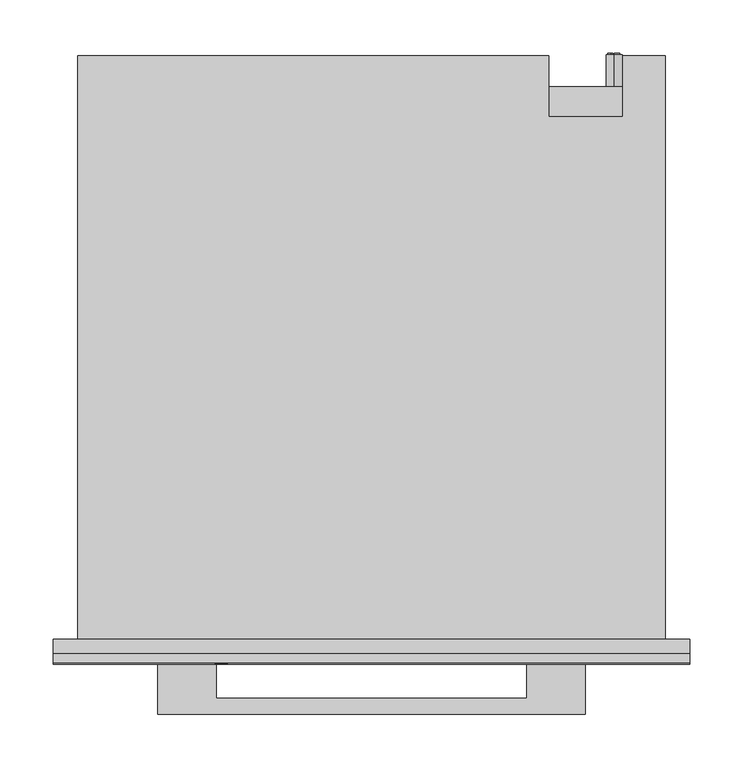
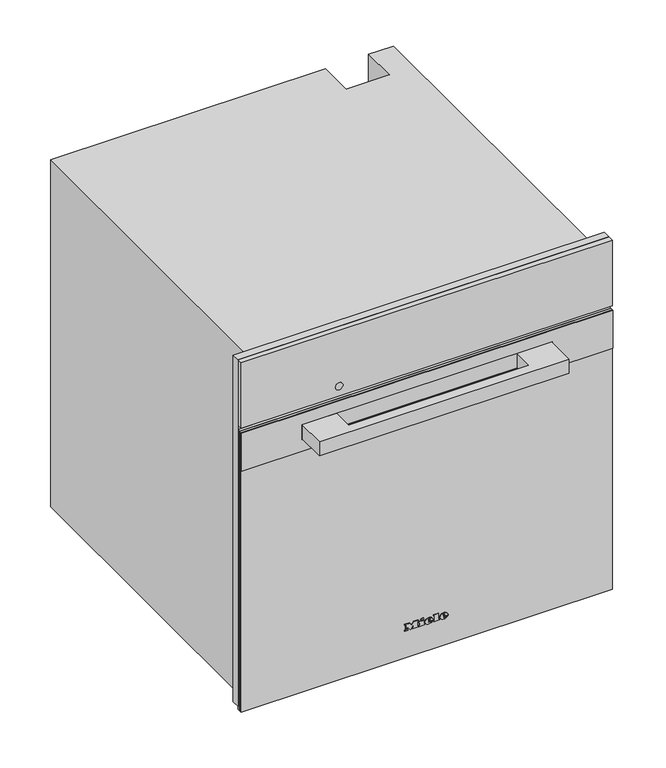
"""IFC4 building model written with IfcOpenShell, lengths in millimetres: proxy geometry, 12109610_CN_DGC7860HCProC_EDST- : 23786049_CN_12109610_DGC7860HCProC_EDST-."""

from ifc_helpers import new_model, si_unit, point, frame, frame_2d, origin, place, context, project, spatial, polyline, circle_curve, ellipse_curve, trimmed, segment, composite_curve, outline, extrude, faceted_brep, source, transform, mapped, element, save
from ifc_brep_helpers import plane_surface, cylinder_surface, revolved_surface, extruded_surface, advanced_brep


def specialty_equipment_704f67a2(model_context):
    return source(origin(), model_context, "Body", "SolidModel", [
        extrude(outline(polyline([(596.0, 297.5), (596.0, -297.5), (9.0, -297.5), (9.0, 297.5), (596.0, 297.5)]), holes=[polyline([(485.0, -272.5), (485.0, 272.5), (27.0, 272.5), (27.0, -272.5), (485.0, -272.5)])]), frame((0.0, -13.0, 0.0), z_axis=(0.0, 1.0, 0.0), x_axis=(0.0, 0.0, 1.0)), (0.0, 0.0, 1.0), 13.0),
        advanced_brep(
        [(227.0, 547.0, 396.5), (227.0, 547.0, 381.5), (221.4098301, 547.0, 384.0), (225.5, 547.0, 384.0), (225.5, 547.0, 394.0), (224.4955303, 547.0, 394.0), (224.4955303, 547.0, 385.0), (221.0315043, 547.0, 385.0), (221.0315043, 547.0, 384.4582978), (232.0, 547.0, 384.0), (232.0, 547.0, 394.0), (227.0, 547.0, 394.0), (227.0, 547.0, 393.0), (231.0, 547.0, 393.0), (231.0, 547.0, 389.5), (228.0, 547.0, 389.5), (228.0, 547.0, 388.5), (231.0, 547.0, 388.5), (231.0, 547.0, 385.0), (227.0, 547.0, 385.0), (227.0, 547.0, 384.0), (227.0, 517.0, 381.5), (227.0, 517.0, 396.5), (232.0, 548.0, 394.0), (232.0, 548.0, 384.0), (227.0, 548.0, 384.0), (227.0, 548.0, 385.0), (231.0, 548.0, 385.0), (231.0, 548.0, 388.5), (228.0, 548.0, 388.5), (228.0, 548.0, 389.5), (231.0, 548.0, 389.5), (231.0, 548.0, 393.0), (227.0, 548.0, 393.0), (227.0, 548.0, 394.0), (225.5, 548.0, 384.0), (221.0315043, 548.0, 384.0), (221.0315043, 548.0, 385.0), (224.4955303, 548.0, 385.0), (224.4955303, 548.0, 394.0), (225.5, 548.0, 394.0), (221.0315043, 547.0, 384.0)],
        [
            (0, 1, circle_curve(frame((227.0, 547.0, 389.0), z_axis=(0.0, 1.0, 0.0), x_axis=(0.0, 0.0, 1.0)), 7.5)),
            (1, 2, circle_curve(frame((227.0, 547.0, 389.0), z_axis=(0.0, 1.0, 0.0), x_axis=(0.0, 0.0, 1.0)), 7.5)),
            (2, 3),
            (3, 4),
            (4, 5),
            (5, 6),
            (6, 7),
            (7, 8),
            (8, 0, circle_curve(frame((227.0, 547.0, 389.0), z_axis=(0.0, 1.0, 0.0), x_axis=(0.0, 0.0, 1.0)), 7.5)),
            (9, 10),
            (10, 11),
            (11, 12),
            (12, 13),
            (13, 14),
            (14, 15),
            (15, 16),
            (16, 17),
            (17, 18),
            (18, 19),
            (19, 20),
            (20, 9),
            (21, 22, circle_curve(frame((227.0, 517.0, 389.0), z_axis=(0.0, -1.0, 0.0), x_axis=(0.0, 0.0, 1.0)), 7.5)),
            (22, 21, circle_curve(frame((227.0, 517.0, 389.0), z_axis=(0.0, -1.0, 0.0), x_axis=(0.0, 0.0, 1.0)), 7.5)),
            (0, 22),
            (21, 1),
            (8, 2, circle_curve(frame((227.0, 547.0, 389.0), z_axis=(0.0, -1.0, 0.0), x_axis=(0.0, 0.0, 1.0)), 7.5)),
            (23, 24),
            (24, 25),
            (25, 26),
            (26, 27),
            (27, 28),
            (28, 29),
            (29, 30),
            (30, 31),
            (31, 32),
            (32, 33),
            (33, 34),
            (34, 23),
            (35, 36),
            (36, 37),
            (37, 38),
            (38, 39),
            (39, 40),
            (40, 35),
            (8, 41),
            (41, 2),
            (23, 10),
            (9, 24),
            (20, 25),
            (19, 26),
            (18, 27),
            (17, 28),
            (16, 29),
            (15, 30),
            (14, 31),
            (13, 32),
            (12, 33),
            (11, 34),
            (35, 3),
            (41, 36),
            (7, 37),
            (6, 38),
            (5, 39),
            (4, 40),
        ],
        [
            plane_surface(frame((227.0, 547.0, 396.5), z_axis=(0.0, 1.0, 0.0), x_axis=(1.0, 0.0, 0.0))),
            plane_surface(frame((227.0, 517.0, 396.5), z_axis=(0.0, -1.0, 0.0), x_axis=(-1.0, 0.0, 0.0))),
            cylinder_surface(frame((227.0, 547.0, 389.0), z_axis=(0.0, -1.0, 0.0), x_axis=(0.0, 0.0, 1.0)), 7.5),
            plane_surface(frame((232.0, 548.0, 394.0), z_axis=(0.0, 1.0, 0.0), x_axis=(0.0, 0.0, -1.0))),
            plane_surface(frame((232.0, 547.0, 394.0), z_axis=(0.0, -1.0, 0.0), x_axis=(0.0, 0.0, 1.0))),
            plane_surface(frame((232.0, 548.0, 394.0), z_axis=(1.0, 0.0, 0.0), x_axis=(0.0, -1.0, 0.0))),
            plane_surface(frame((232.0, 548.0, 384.0), z_axis=(0.0, 0.0, -1.0), x_axis=(0.0, -1.0, 0.0))),
            plane_surface(frame((227.0, 548.0, 384.0), z_axis=(-1.0, 0.0, 0.0), x_axis=(0.0, -1.0, 0.0))),
            plane_surface(frame((227.0, 548.0, 385.0), z_axis=(0.0, 0.0, 1.0), x_axis=(0.0, -1.0, 0.0))),
            plane_surface(frame((231.0, 548.0, 385.0), z_axis=(-1.0, 0.0, 0.0), x_axis=(0.0, -1.0, 0.0))),
            plane_surface(frame((231.0, 548.0, 388.5), z_axis=(0.0, 0.0, -1.0), x_axis=(0.0, -1.0, 0.0))),
            plane_surface(frame((228.0, 548.0, 388.5), z_axis=(-1.0, 0.0, 0.0), x_axis=(0.0, -1.0, 0.0))),
            plane_surface(frame((228.0, 548.0, 389.5), z_axis=(0.0, 0.0, 1.0), x_axis=(0.0, -1.0, 0.0))),
            plane_surface(frame((231.0, 548.0, 389.5), z_axis=(-1.0, 0.0, 0.0), x_axis=(0.0, -1.0, 0.0))),
            plane_surface(frame((231.0, 548.0, 393.0), z_axis=(0.0, 0.0, -1.0), x_axis=(0.0, -1.0, 0.0))),
            plane_surface(frame((227.0, 548.0, 393.0), z_axis=(-1.0, 0.0, 0.0), x_axis=(0.0, -1.0, 0.0))),
            plane_surface(frame((227.0, 548.0, 394.0), z_axis=(0.0, 0.0, 1.0), x_axis=(0.0, -1.0, 0.0))),
            plane_surface(frame((225.5, 548.0, 384.0), z_axis=(0.0, 0.0, -1.0), x_axis=(0.0, -1.0, 0.0))),
            plane_surface(frame((221.0315043, 548.0, 384.0), z_axis=(-1.0, 0.0, 0.0), x_axis=(0.0, -1.0, 0.0))),
            plane_surface(frame((221.0315043, 548.0, 385.0), z_axis=(0.0, 0.0, 1.0), x_axis=(0.0, -1.0, 0.0))),
            plane_surface(frame((224.4955303, 548.0, 385.0), z_axis=(-1.0, 0.0, 0.0), x_axis=(0.0, -1.0, 0.0))),
            plane_surface(frame((224.4955303, 548.0, 394.0), z_axis=(0.0, 0.0, 1.0), x_axis=(0.0, -1.0, 0.0))),
            plane_surface(frame((225.5, 548.0, 394.0), z_axis=(1.0, 0.0, 0.0), x_axis=(0.0, -1.0, 0.0))),
        ],
        [
            (0, [[1, 2, 3, 4, 5, 6, 7, 8, 9], [10, 11, 12, 13, 14, 15, 16, 17, 18, 19, 20, 21]]),
            (1, [[22, 23]]),
            (2, [[-1, 24, -22, 25]]),
            (2, [[-23, -24, -9, 26, -2, -25]]),
            (3, [[27, 28, 29, 30, 31, 32, 33, 34, 35, 36, 37, 38]]),
            (3, [[39, 40, 41, 42, 43, 44]]),
            (4, [[45, 46, -26]]),
            (5, [[-27, 47, -10, 48]]),
            (6, [[-28, -48, -21, 49]]),
            (7, [[-29, -49, -20, 50]]),
            (8, [[-30, -50, -19, 51]]),
            (9, [[-31, -51, -18, 52]]),
            (10, [[-32, -52, -17, 53]]),
            (11, [[-33, -53, -16, 54]]),
            (12, [[-34, -54, -15, 55]]),
            (13, [[-35, -55, -14, 56]]),
            (14, [[-36, -56, -13, 57]]),
            (15, [[-37, -57, -12, 58]]),
            (16, [[-38, -58, -11, -47]]),
            (17, [[-39, 59, -3, -46, 60]]),
            (18, [[-40, -60, -45, -8, 61]]),
            (19, [[-41, -61, -7, 62]]),
            (20, [[-42, -62, -6, 63]]),
            (21, [[-43, -63, -5, 64]]),
            (22, [[-44, -64, -4, -59]]),
        ],
    ),
        faceted_brep([(-275.0, 546.0, 0.0), (-275.0, 546.0, 588.0), (166.0, 546.0, 588.0), (166.0, 546.0, 0.0), (235.0, 546.0, 588.0), (275.0, 546.0, 588.0), (275.0, 546.0, 478.0), (235.0, 546.0, 478.0), (275.0, 0.0, 588.0), (-275.0, 0.0, 588.0), (-275.0, 0.0, 0.0), (275.0, 0.0, 0.0), (-272.5, 0.0, 485.0), (272.5, 0.0, 485.0), (272.5, 0.0, 27.0), (-272.5, 0.0, 27.0), (235.0, 489.0, 588.0), (166.0, 489.0, 588.0), (166.0, 517.0, 0.0), (275.0, 517.0, 0.0), (275.0, 517.0, 478.0), (272.5, 17.0, 485.0), (-272.5, 17.0, 485.0), (-272.5, 17.0, 27.0), (272.5, 17.0, 27.0), (231.0, 17.0, 409.0), (231.0, 17.0, 61.0), (-231.0, 17.0, 61.0), (-231.0, 17.0, 409.0), (231.0, 411.0, 409.0), (-231.0, 411.0, 409.0), (-231.0, 411.0, 61.0), (231.0, 411.0, 61.0), (235.0, 489.0, 477.0), (166.0, 489.0, 477.0), (166.0, 517.0, 477.0), (235.0, 517.0, 477.0), (235.0, 517.0, 478.0)], [[[0, 1, 2, 3]], [[4, 5, 6, 7]], [[8, 9, 10, 11], [12, 13, 14, 15]], [[9, 8, 5, 4, 16, 17, 2, 1]], [[1, 0, 10, 9]], [[11, 10, 0, 3, 18, 19]], [[8, 11, 19, 20, 6, 5]], [[21, 22, 23, 24], [25, 26, 27, 28]], [[22, 21, 13, 12]], [[23, 22, 12, 15]], [[24, 23, 15, 14]], [[21, 24, 14, 13]], [[29, 30, 31, 32]], [[29, 32, 26, 25]], [[32, 31, 27, 26]], [[31, 30, 28, 27]], [[30, 29, 25, 28]], [[16, 33, 34, 17]], [[17, 34, 35, 18, 3, 2]], [[34, 33, 36, 35]], [[33, 16, 4, 7, 37, 36]], [[37, 20, 19, 18, 35, 36]], [[20, 37, 7, 6]]]),
        advanced_brep(
        [(26.2998, -23.0, 52.7018), (26.2998, -23.0, 53.8532), (33.9264, -23.0, 53.8532), (20.6568, -23.0, 53.8532), (23.7918, -23.0, 50.0), (33.7326, -23.0, 52.7018), (30.2898, -23.0, 52.7018), (27.5766, -23.0, 51.425), (26.2998, -23.0, 55.3124), (26.2998, -23.0, 56.555), (28.2492, -23.0, 56.555), (28.2492, -23.0, 55.3124), (26.2998, -22.0, 52.7018), (27.5766, -22.0, 51.425), (30.2898, -22.0, 52.7018), (33.7326, -22.0, 52.7018), (23.7918, -22.0, 50.0), (20.6568, -22.0, 53.8532), (33.9264, -22.0, 53.8532), (26.2998, -22.0, 53.8532), (26.2998, -22.0, 55.3124), (28.2492, -22.0, 55.3124), (28.2492, -22.0, 56.555), (26.2998, -22.0, 56.555)],
        [
            (0, 1),
            (1, 2),
            (2, 3, ellipse_curve(frame((27.2916, -23.0, 53.8532), z_axis=(0.0, -1.0, 0.0), x_axis=(-1.0, 0.0, 0.0)), 6.6348, 5.4834)),
            (3, 4, circle_curve(frame((25.0686622, -23.0, 54.2408), z_axis=(0.0, -1.0, 0.0), x_axis=(0.0, 0.0, -1.0)), 4.4288556)),
            (4, 5, circle_curve(frame((27.1587808, -23.0, 57.2504), z_axis=(0.0, -1.0, 0.0), x_axis=(0.0, 0.0, -1.0)), 7.9940516)),
            (5, 6),
            (6, 7, circle_curve(frame((28.1338588, -23.0, 53.762), z_axis=(0.0, 1.0, 0.0), x_axis=(0.0, 0.0, -1.0)), 2.4025208)),
            (7, 0, circle_curve(frame((27.5766, -23.0, 52.7018), z_axis=(0.0, 1.0, 0.0), x_axis=(0.0, 0.0, -1.0)), 1.2768)),
            (8, 9),
            (9, 10, circle_curve(frame((27.2745, -23.0, 56.555), z_axis=(0.0, 1.0, 0.0), x_axis=(0.0, 0.0, -1.0)), 0.9747)),
            (10, 11),
            (11, 8),
            (12, 13, circle_curve(frame((27.5766, -22.0, 52.7018), z_axis=(0.0, -1.0, 0.0), x_axis=(0.0, 0.0, -1.0)), 1.2768)),
            (13, 14, circle_curve(frame((28.1338588, -22.0, 53.762), z_axis=(0.0, -1.0, 0.0), x_axis=(0.0, 0.0, -1.0)), 2.4025208)),
            (14, 15),
            (15, 16, circle_curve(frame((27.1587808, -22.0, 57.2504), z_axis=(0.0, 1.0, 0.0), x_axis=(0.0, 0.0, -1.0)), 7.9940516)),
            (16, 17, circle_curve(frame((25.0686622, -22.0, 54.2408), z_axis=(0.0, 1.0, 0.0), x_axis=(0.0, 0.0, -1.0)), 4.4288556)),
            (17, 18, ellipse_curve(frame((27.2916, -22.0, 53.8532), z_axis=(0.0, 1.0, 0.0), x_axis=(-1.0, 0.0, 0.0)), 6.6348, 5.4834)),
            (18, 19),
            (19, 12),
            (20, 21),
            (21, 22),
            (22, 23, circle_curve(frame((27.2745, -22.0, 56.555), z_axis=(0.0, -1.0, 0.0), x_axis=(0.0, 0.0, -1.0)), 0.9747)),
            (23, 20),
            (0, 12),
            (19, 1),
            (18, 2),
            (5, 15),
            (14, 6),
            (17, 3),
            (13, 7),
            (16, 4),
            (8, 20),
            (23, 9),
            (22, 10),
            (21, 11),
        ],
        [
            plane_surface(frame((26.2998, -23.0, 53.8532), z_axis=(0.0, -1.0, 0.0), x_axis=(0.0, 0.0, 1.0))),
            plane_surface(frame((26.2998, -22.0, 53.8532), z_axis=(0.0, 1.0, 0.0), x_axis=(0.0, 0.0, -1.0))),
            plane_surface(frame((26.2998, -23.0, 52.7018), z_axis=(1.0, 0.0, 0.0), x_axis=(0.0, 1.0, 0.0))),
            plane_surface(frame((26.2998, -23.0, 53.8532), z_axis=(0.0, 0.0, -1.0), x_axis=(0.0, 1.0, 0.0))),
            plane_surface(frame((33.7326, -23.0, 52.7018), z_axis=(0.0, 0.0, 1.0), x_axis=(0.0, 1.0, 0.0))),
            extruded_surface(trimmed(ellipse_curve(frame((27.2916, -21.0, 53.8532), z_axis=(0.0, -1.0, 0.0), x_axis=(-1.0, 0.0, 0.0)), 6.6348, 5.4834), [point((33.9264, -21.0, 53.8532))], [point((20.6568, -21.0, 53.8532))], True, "CARTESIAN"), (0.0, -1.0, 0.0), 1.0),
            revolved_surface(polyline([(28.1338588, -22.0, 51.3594792), (28.1338588, -23.0, 51.3594792)]), (28.1338588, -22.0, 53.762), (0.0, 1.0, 0.0)),
            revolved_surface(polyline([(27.5766, -22.0, 51.425), (27.5766, -23.0, 51.425)]), (27.5766, -22.0, 52.7018), (0.0, 1.0, 0.0)),
            cylinder_surface(frame((25.0686622, -22.0, 54.2408), z_axis=(0.0, -1.0, 0.0), x_axis=(0.0, 0.0, -1.0)), 4.4288556),
            cylinder_surface(frame((27.1587808, -22.0, 57.2504), z_axis=(0.0, -1.0, 0.0), x_axis=(0.0, 0.0, -1.0)), 7.9940516),
            plane_surface(frame((26.2998, -23.0, 55.3124), z_axis=(1.0, 0.0, 0.0), x_axis=(0.0, 1.0, 0.0))),
            revolved_surface(polyline([(27.2745, -22.0, 55.5803), (27.2745, -23.0, 55.5803)]), (27.2745, -22.0, 56.555), (0.0, 1.0, 0.0)),
            plane_surface(frame((28.2492, -23.0, 56.555), z_axis=(-1.0, 0.0, 0.0), x_axis=(0.0, 1.0, 0.0))),
            plane_surface(frame((28.2492, -23.0, 55.3124), z_axis=(0.0, 0.0, 1.0), x_axis=(0.0, 1.0, 0.0))),
        ],
        [
            (0, [[1, 2, 3, 4, 5, 6, 7, 8], [9, 10, 11, 12]]),
            (1, [[13, 14, 15, 16, 17, 18, 19, 20], [21, 22, 23, 24]]),
            (2, [[-1, 25, -20, 26]]),
            (3, [[-2, -26, -19, 27]]),
            (4, [[-6, 28, -15, 29]]),
            (5, [[-3, -27, -18, 30]]),
            (6, [[-7, -29, -14, 31]]),
            (7, [[-8, -31, -13, -25]]),
            (8, [[-4, -30, -17, 32]]),
            (9, [[-5, -32, -16, -28]]),
            (10, [[-9, 33, -24, 34]]),
            (11, [[-10, -34, -23, 35]]),
            (12, [[-11, -35, -22, 36]]),
            (13, [[-12, -36, -21, -33]]),
        ],
    ),
        advanced_brep(
        [(2.508, -23.0, 52.7018), (2.508, -23.0, 53.8532), (10.1346, -23.0, 53.8532), (-3.135, -23.0, 53.8532), (0.0, -23.0, 50.0), (9.9408, -23.0, 52.7018), (6.498, -23.0, 52.7018), (3.7848, -23.0, 51.425), (2.508, -23.0, 55.3124), (2.508, -23.0, 56.555), (4.4574, -23.0, 56.555), (4.4574, -23.0, 55.3124), (2.508, -22.0, 52.7018), (3.7848, -22.0, 51.425), (6.498, -22.0, 52.7018), (9.9408, -22.0, 52.7018), (0.0, -22.0, 50.0), (-3.135, -22.0, 53.8532), (10.1346, -22.0, 53.8532), (2.508, -22.0, 53.8532), (2.508, -22.0, 55.3124), (4.4574, -22.0, 55.3124), (4.4574, -22.0, 56.555), (2.508, -22.0, 56.555)],
        [
            (0, 1),
            (1, 2),
            (2, 3, ellipse_curve(frame((3.4998, -23.0, 53.8532), z_axis=(0.0, -1.0, 0.0), x_axis=(-1.0, 0.0, 0.0)), 6.6348, 5.4834)),
            (3, 4, circle_curve(frame((1.2768622, -23.0, 54.2408), z_axis=(0.0, -1.0, 0.0), x_axis=(0.0, 0.0, -1.0)), 4.4288556)),
            (4, 5, circle_curve(frame((3.3669808, -23.0, 57.2504), z_axis=(0.0, -1.0, 0.0), x_axis=(0.0, 0.0, -1.0)), 7.9940516)),
            (5, 6),
            (6, 7, circle_curve(frame((4.3420588, -23.0, 53.762), z_axis=(0.0, 1.0, 0.0), x_axis=(0.0, 0.0, -1.0)), 2.4025208)),
            (7, 0, circle_curve(frame((3.7848, -23.0, 52.7018), z_axis=(0.0, 1.0, 0.0), x_axis=(0.0, 0.0, -1.0)), 1.2768)),
            (8, 9),
            (9, 10, circle_curve(frame((3.4827, -23.0, 56.555), z_axis=(0.0, 1.0, 0.0), x_axis=(0.0, 0.0, -1.0)), 0.9747)),
            (10, 11),
            (11, 8),
            (12, 13, circle_curve(frame((3.7848, -22.0, 52.7018), z_axis=(0.0, -1.0, 0.0), x_axis=(0.0, 0.0, -1.0)), 1.2768)),
            (13, 14, circle_curve(frame((4.3420588, -22.0, 53.762), z_axis=(0.0, -1.0, 0.0), x_axis=(0.0, 0.0, -1.0)), 2.4025208)),
            (14, 15),
            (15, 16, circle_curve(frame((3.3669808, -22.0, 57.2504), z_axis=(0.0, 1.0, 0.0), x_axis=(0.0, 0.0, -1.0)), 7.9940516)),
            (16, 17, circle_curve(frame((1.2768622, -22.0, 54.2408), z_axis=(0.0, 1.0, 0.0), x_axis=(0.0, 0.0, -1.0)), 4.4288556)),
            (17, 18, ellipse_curve(frame((3.4998, -22.0, 53.8532), z_axis=(0.0, 1.0, 0.0), x_axis=(-1.0, 0.0, 0.0)), 6.6348, 5.4834)),
            (18, 19),
            (19, 12),
            (20, 21),
            (21, 22),
            (22, 23, circle_curve(frame((3.4827, -22.0, 56.555), z_axis=(0.0, -1.0, 0.0), x_axis=(0.0, 0.0, -1.0)), 0.9747)),
            (23, 20),
            (0, 12),
            (19, 1),
            (18, 2),
            (5, 15),
            (14, 6),
            (17, 3),
            (13, 7),
            (16, 4),
            (8, 20),
            (23, 9),
            (22, 10),
            (21, 11),
        ],
        [
            plane_surface(frame((2.508, -23.0, 53.8532), z_axis=(0.0, -1.0, 0.0), x_axis=(0.0, 0.0, 1.0))),
            plane_surface(frame((2.508, -22.0, 53.8532), z_axis=(0.0, 1.0, 0.0), x_axis=(0.0, 0.0, -1.0))),
            plane_surface(frame((2.508, -23.0, 52.7018), z_axis=(1.0, 0.0, 0.0), x_axis=(0.0, 1.0, 0.0))),
            plane_surface(frame((2.508, -23.0, 53.8532), z_axis=(0.0, 0.0, -1.0), x_axis=(0.0, 1.0, 0.0))),
            plane_surface(frame((9.9408, -23.0, 52.7018), z_axis=(0.0, 0.0, 1.0), x_axis=(0.0, 1.0, 0.0))),
            extruded_surface(trimmed(ellipse_curve(frame((3.4998, -21.0, 53.8532), z_axis=(0.0, -1.0, 0.0), x_axis=(-1.0, 0.0, 0.0)), 6.6348, 5.4834), [point((10.1346, -21.0, 53.8532))], [point((-3.135, -21.0, 53.8532))], True, "CARTESIAN"), (0.0, -1.0, 0.0), 1.0),
            revolved_surface(polyline([(4.3420588, -22.0, 51.3594792), (4.3420588, -23.0, 51.3594792)]), (4.3420588, -22.0, 53.762), (0.0, 1.0, 0.0)),
            revolved_surface(polyline([(3.7848, -22.0, 51.425), (3.7848, -23.0, 51.425)]), (3.7848, -22.0, 52.7018), (0.0, 1.0, 0.0)),
            cylinder_surface(frame((1.2768622, -22.0, 54.2408), z_axis=(0.0, -1.0, 0.0), x_axis=(0.0, 0.0, -1.0)), 4.4288556),
            cylinder_surface(frame((3.3669808, -22.0, 57.2504), z_axis=(0.0, -1.0, 0.0), x_axis=(0.0, 0.0, -1.0)), 7.9940516),
            plane_surface(frame((2.508, -23.0, 55.3124), z_axis=(1.0, 0.0, 0.0), x_axis=(0.0, 1.0, 0.0))),
            revolved_surface(polyline([(3.4827, -22.0, 55.5803), (3.4827, -23.0, 55.5803)]), (3.4827, -22.0, 56.555), (0.0, 1.0, 0.0)),
            plane_surface(frame((4.4574, -23.0, 56.555), z_axis=(-1.0, 0.0, 0.0), x_axis=(0.0, 1.0, 0.0))),
            plane_surface(frame((4.4574, -23.0, 55.3124), z_axis=(0.0, 0.0, 1.0), x_axis=(0.0, 1.0, 0.0))),
        ],
        [
            (0, [[1, 2, 3, 4, 5, 6, 7, 8], [9, 10, 11, 12]]),
            (1, [[13, 14, 15, 16, 17, 18, 19, 20], [21, 22, 23, 24]]),
            (2, [[-1, 25, -20, 26]]),
            (3, [[-2, -26, -19, 27]]),
            (4, [[-6, 28, -15, 29]]),
            (5, [[-3, -27, -18, 30]]),
            (6, [[-7, -29, -14, 31]]),
            (7, [[-8, -31, -13, -25]]),
            (8, [[-4, -30, -17, 32]]),
            (9, [[-5, -32, -16, -28]]),
            (10, [[-9, 33, -24, 34]]),
            (11, [[-10, -34, -23, 35]]),
            (12, [[-11, -35, -22, 36]]),
            (13, [[-12, -36, -21, -33]]),
        ],
    ),
        extrude(outline(polyline([(60.7274, -9.9522), (58.8806, -9.0858), (60.6818, -5.2212), (62.5286, -6.0762), (60.7274, -9.9522)])), frame((0.0, -23.0, 0.0), z_axis=(0.0, 1.0, 0.0), x_axis=(0.0, 0.0, 1.0)), (0.0, 0.0, 1.0), 1.0),
        extrude(outline(polyline([(58.6298, -12.768), (56.5892, -12.768), (56.5892, -11.4114), (51.9152, -11.4114), (51.9152, -12.768), (50.0, -12.768), (50.0, -3.7734), (51.9152, -3.7734), (51.9152, -5.0958), (58.6298, -5.0958), (58.6298, -12.768)])), frame((0.0, -23.0, 0.0), z_axis=(0.0, 1.0, 0.0), x_axis=(0.0, 0.0, 1.0)), (0.0, 0.0, 1.0), 1.0),
        extrude(outline(polyline([(59.5418, 10.773), (59.5418, 12.141), (51.9152, 12.141), (51.9152, 10.773), (50.0, 10.773), (50.0, 20.0184), (51.9152, 20.0184), (51.9152, 18.6162), (61.4, 18.6162), (61.4, 10.773), (59.5418, 10.773)])), frame((0.0, -23.0, 0.0), z_axis=(0.0, 1.0, 0.0), x_axis=(0.0, 0.0, 1.0)), (0.0, 0.0, 1.0), 1.0),
        extrude(outline(polyline([(59.5418, -35.4882), (59.5418, -34.1088), (51.9152, -34.1088), (51.9152, -35.4882), (50.0, -35.4882), (50.0, -30.4722), (51.9152, -30.4722), (51.9152, -31.8402), (56.7429247, -31.8402), (50.0, -26.7444), (56.9402223, -21.6258), (51.9152, -21.6258), (51.9152, -23.028), (50.0, -23.028), (50.0, -13.9308), (51.9152, -13.9308), (51.9152, -15.3786), (59.5418, -15.3786), (59.5418, -13.9308), (61.4, -13.9308), (61.4, -20.8734), (57.125, -24.2022), (61.4, -27.5424), (61.4, -35.4882), (59.5418, -35.4882)])), frame((0.0, -23.0, 0.0), z_axis=(0.0, 1.0, 0.0), x_axis=(0.0, 0.0, 1.0)), (0.0, 0.0, 1.0), 1.0),
        extrude(outline(polyline([(297.5, -22.0), (-297.5, -22.0), (-297.5, -13.0), (297.5, -13.0), (297.5, -22.0)])), frame((0.0, 0.0, 485.0), z_axis=(0.0, 0.0, 1.0), x_axis=(1.0, 0.0, 0.0)), (0.0, 0.0, 1.0), 111.0),
        extrude(outline(composite_curve([segment(trimmed(circle_curve(frame_2d((502.0, -140.5745637)), 6.0), [point((502.0, -146.5745637))], [point((502.0, -134.5745637))], False, "CARTESIAN"), True, "CONTINUOUS"), segment(trimmed(circle_curve(frame_2d((502.0, -140.5745637)), 6.0), [point((502.0, -134.5745637))], [point((502.0, -146.5745637))], False, "CARTESIAN"), True, "CONTINUOUS")], self_intersect=False)), frame((0.0, -22.5, 0.0), z_axis=(0.0, 1.0, 0.0), x_axis=(0.0, 0.0, 1.0)), (0.0, 0.0, 1.0), 1.0),
        extrude(outline(polyline([(297.5, -18.0), (-297.5, -18.0), (-297.5, -13.0), (297.5, -13.0), (297.5, -18.0)])), frame((0.0, 0.0, 4.0), z_axis=(0.0, 0.0, 1.0), x_axis=(1.0, 0.0, 0.0)), (0.0, 0.0, 1.0), 474.0),
        extrude(outline(polyline([(-297.5, -18.0), (297.5, -18.0), (297.5, -22.0), (-297.5, -22.0), (-297.5, -18.0)])), frame((0.0, 0.0, 4.0), z_axis=(0.0, 0.0, 1.0), x_axis=(1.0, 0.0, 0.0)), (0.0, 0.0, 1.0), 474.0),
        extrude(outline(polyline([(-200.0, -70.3), (-200.0, -22.0), (-145.0, -22.0), (-145.0, -55.3), (145.0, -55.3), (145.0, -22.0), (200.0, -22.0), (200.0, -70.3), (-200.0, -70.3)])), frame((0.0, 0.0, 433.5), z_axis=(0.0, 0.0, 1.0), x_axis=(1.0, 0.0, 0.0)), (0.0, 0.0, 1.0), 24.0),
        extrude(outline(polyline([(478.0, 297.5), (478.0, -297.5), (413.0, -297.5), (413.0, 297.5), (478.0, 297.5)]), holes=[polyline([(458.0, -200.5), (458.0, 200.5), (433.0, 200.5), (433.0, -200.5), (458.0, -200.5)])]), frame((0.0, -23.3, 0.0), z_axis=(0.0, 1.0, 0.0), x_axis=(0.0, 0.0, 1.0)), (0.0, 0.0, 1.0), 1.3),
    ])


if __name__ == "__main__":
    model = new_model("IFC4")
    model_context = context("Model", 3, world=origin())
    ifc_project = project(units=[si_unit("LENGTHUNIT", "METRE", prefix="MILLI")], contexts=[model_context])
    site = spatial("IfcSite", under=ifc_project)
    building = spatial("IfcBuilding", under=site)
    placement = place(None, origin())
    specialty_equipment_shape = specialty_equipment_704f67a2(model_context)
    element("IfcBuildingElementProxy", 1, Name="12109610_CN_DGC7860HCProC_EDST- : 23786049_CN_12109610_DGC7860HCProC_EDST-", ObjectType="12109610_CN_DGC7860HCProC_EDST- : 23786049_CN_12109610_DGC7860HCProC_EDST-", at=placement, inside=building, context=model_context, shape_type="MappedRepresentation", body=[
        mapped(specialty_equipment_shape, transform((0.0, 0.0, 0.0), x_axis=(1.0, 0.0, 0.0), y_axis=(0.0, 1.0, 0.0), z_axis=(0.0, 0.0, 1.0))),
    ])
    save(model, "model.ifc")
